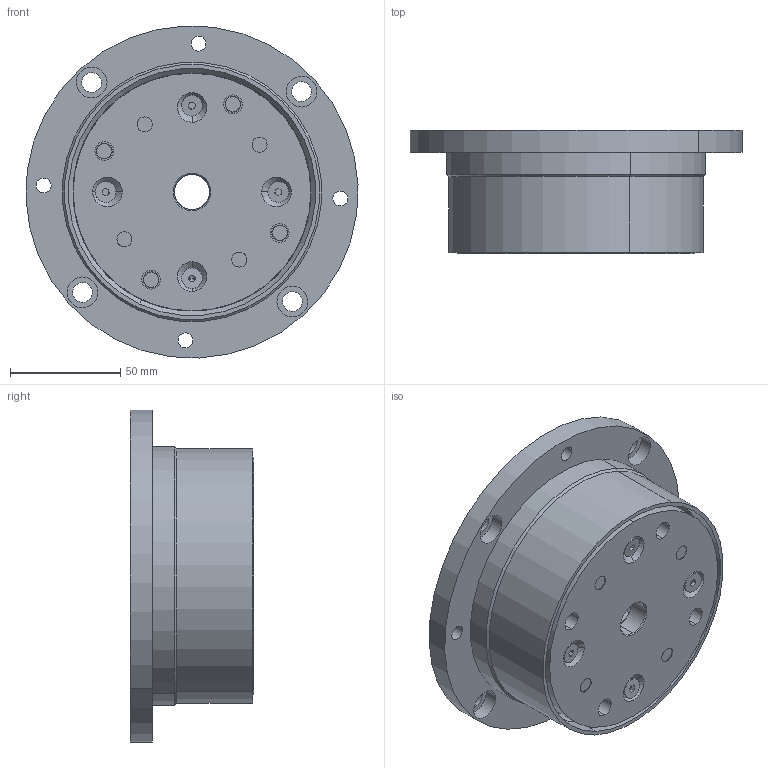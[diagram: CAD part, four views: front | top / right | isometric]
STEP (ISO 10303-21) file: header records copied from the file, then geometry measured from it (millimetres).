
FILE_DESCRIPTION (( 'STEP AP203' ), '1' );
FILE_NAME ('FB-140-108.STEP', '2024-08-08T14:11:46', ( '' ), ( '' ), 'SwSTEP 2.0', 'SolidWorks 2020', '' );
FILE_SCHEMA (( 'CONFIG_CONTROL_DESIGN' ));
Length unit declared in the file: millimetre
Products named in the file (1): FB-140-108
Bounding box: 150.86 x 56 x 150.86 mm (x, y, z)
Surface area: 82977.1 mm2 (no closed solid volume)
Topology: 0 solids, 33 shells, 267 faces, 793 edges, 524 vertices
Faces by surface type: plane 115, cylinder 96, cone 40, torus 16
Entity records: 8965 total; most frequent: DIRECTION 1663, CARTESIAN_POINT 1615, ORIENTED_EDGE 1259, EDGE_CURVE 775, AXIS2_PLACEMENT_3D 636, VERTEX_POINT 524, LINE 391, VECTOR 391
